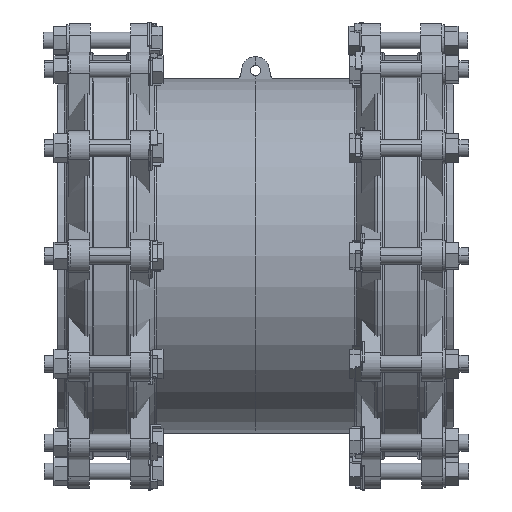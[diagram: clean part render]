
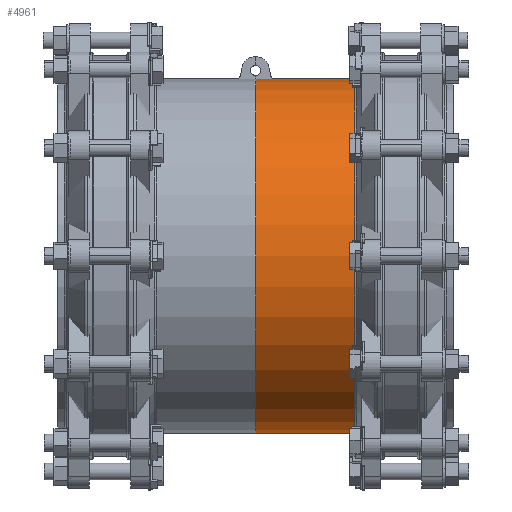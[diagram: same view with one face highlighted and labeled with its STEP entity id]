
A CAD part, front view. The second image highlights one B-rep face of the part: STEP entity #4961.
In plain terms, the highlighted cylindrical face has radius 209.5 mm (diameter 419 mm), a partial arc.
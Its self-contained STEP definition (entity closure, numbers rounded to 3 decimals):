
#4961=ADVANCED_FACE('',(#9546),#9547,.T.);
#9546=FACE_OUTER_BOUND('',#14737,.T.);
#9547=CYLINDRICAL_SURFACE('',#14738,209.5);
#14737=EDGE_LOOP('',(#24754,#24755,#24756,#24757,#24758));
#14738=AXIS2_PLACEMENT_3D('',#24759,#24760,#24761);
#24754=ORIENTED_EDGE('',*,*,#32476,.T.);
#24755=ORIENTED_EDGE('',*,*,#29678,.F.);
#24756=ORIENTED_EDGE('',*,*,#32477,.T.);
#24757=ORIENTED_EDGE('',*,*,#32369,.T.);
#24758=ORIENTED_EDGE('',*,*,#28889,.T.);
#24759=CARTESIAN_POINT('',(646.2,-853.223,562.597));
#24760=DIRECTION('',(-1.0,0.,0.));
#24761=DIRECTION('',(0.,0.,1.0));
#28889=EDGE_CURVE('',#34081,#34079,#34082,.T.);
#29678=EDGE_CURVE('',#35422,#35421,#35424,.T.);
#32369=EDGE_CURVE('',#39273,#34081,#39274,.T.);
#32476=EDGE_CURVE('',#34079,#35421,#39404,.T.);
#32477=EDGE_CURVE('',#35422,#39273,#39405,.T.);
#34079=VERTEX_POINT('',#41352);
#34081=VERTEX_POINT('',#41354);
#34082=CIRCLE('',#41355,209.5);
#35421=VERTEX_POINT('',#43191);
#35422=VERTEX_POINT('',#43192);
#35424=CIRCLE('',#43194,209.5);
#39273=VERTEX_POINT('',#48514);
#39274=CIRCLE('',#48515,209.5);
#39404=LINE('',#48685,#48686);
#39405=LINE('',#48687,#48688);
#41352=CARTESIAN_POINT('',(704.89,-853.223,772.097));
#41354=CARTESIAN_POINT('',(704.89,-1062.723,562.597));
#41355=AXIS2_PLACEMENT_3D('',#50295,#50296,#50297);
#43191=CARTESIAN_POINT('',(587.51,-853.223,772.097));
#43192=CARTESIAN_POINT('',(587.51,-853.223,353.097));
#43194=AXIS2_PLACEMENT_3D('',#51170,#51171,#51172);
#48514=CARTESIAN_POINT('',(704.89,-853.223,353.097));
#48515=AXIS2_PLACEMENT_3D('',#53919,#53920,#53921);
#48685=CARTESIAN_POINT('',(646.2,-853.223,772.097));
#48686=VECTOR('',#54022,1.0);
#48687=CARTESIAN_POINT('',(646.2,-853.223,353.097));
#48688=VECTOR('',#54023,1.0);
#50295=CARTESIAN_POINT('',(704.89,-853.223,562.597));
#50296=DIRECTION('',(-1.0,0.,0.));
#50297=DIRECTION('',(0.,0.,1.0));
#51170=CARTESIAN_POINT('',(587.51,-853.223,562.597));
#51171=DIRECTION('',(-1.0,0.,0.));
#51172=DIRECTION('',(0.,0.,1.0));
#53919=CARTESIAN_POINT('',(704.89,-853.223,562.597));
#53920=DIRECTION('',(-1.0,0.,0.));
#53921=DIRECTION('',(0.,0.,1.0));
#54022=DIRECTION('',(-1.0,0.,0.));
#54023=DIRECTION('',(1.0,0.,0.));
